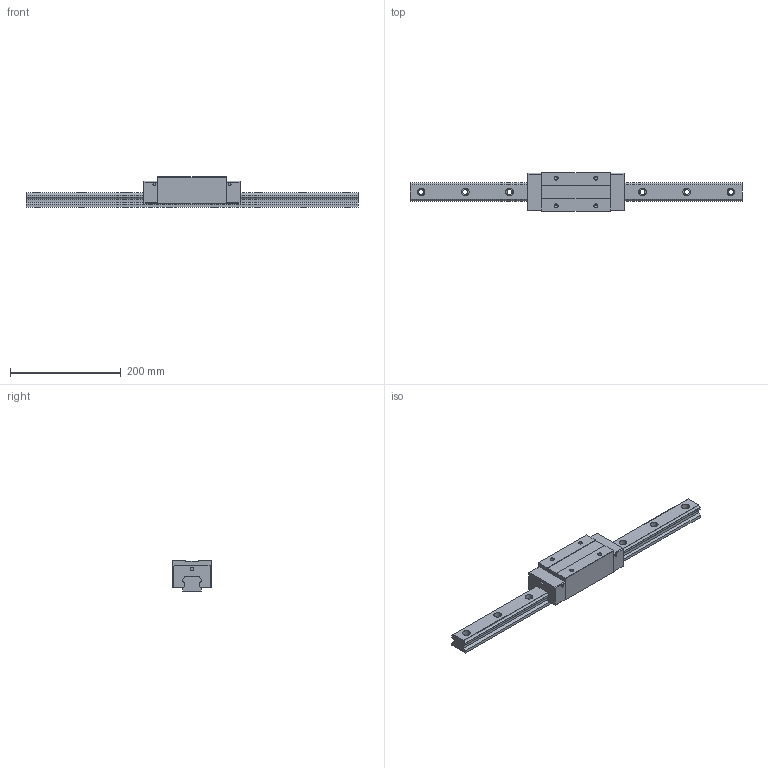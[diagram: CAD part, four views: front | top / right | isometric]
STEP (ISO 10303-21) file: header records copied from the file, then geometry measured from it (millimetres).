
FILE_DESCRIPTION (( 'STEP AP203' ), '1' );
FILE_NAME ('TRH35VE-WZ.STEP', '2024-05-17T01:56:25', ( '' ), ( '' ), 'SwSTEP 2.0', 'SolidWorks 2022', '' );
FILE_SCHEMA (( 'CONFIG_CONTROL_DESIGN' ));
Length unit declared in the file: millimetre
Products named in the file (1): TRH35VE-WZ
Bounding box: 600 x 70 x 55 mm (x, y, z)
Volume: 893379.5 mm3; surface area: 136550.1 mm2
Topology: 2 solids, 2 shells, 186 faces, 488 edges, 316 vertices
Faces by surface type: cylinder 88, plane 82, cone 16
Entity records: 5819 total; most frequent: DIRECTION 1038, CARTESIAN_POINT 983, ORIENTED_EDGE 960, EDGE_CURVE 480, AXIS2_PLACEMENT_3D 371, VERTEX_POINT 316, LINE 296, VECTOR 296
